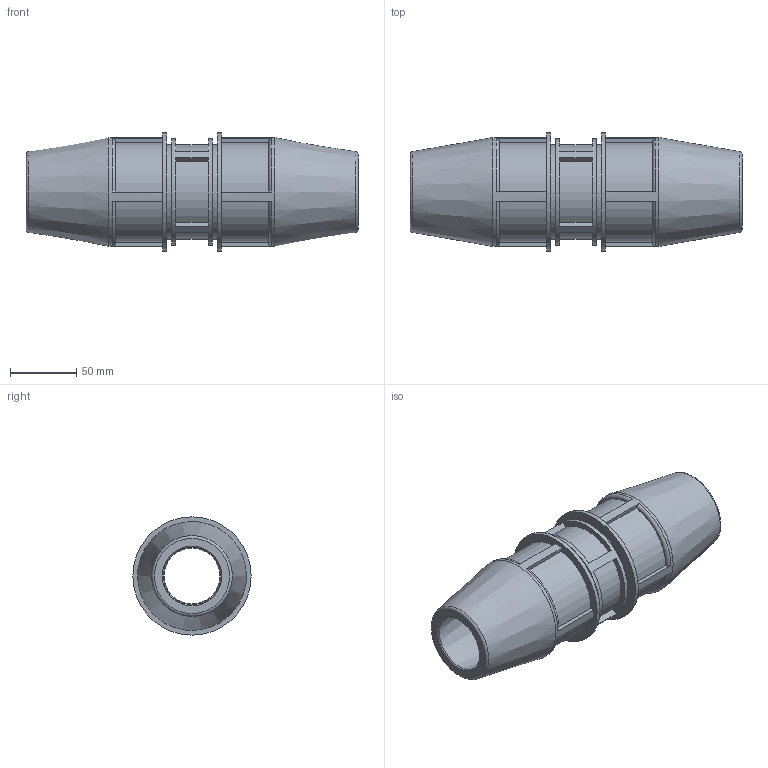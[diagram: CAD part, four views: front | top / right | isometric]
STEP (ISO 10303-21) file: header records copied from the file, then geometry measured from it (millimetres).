
FILE_DESCRIPTION(/* description */ ('PLASSON UNIVERSAL SLIP REPAIR COUPLER 40-43 SERIES 17'),/* implementation_level */ '2;1');
FILE_NAME(/* name */ 'C:\Dropbox\KIMPROJECTS-Inventor\99-16-3568-Processing\S1\17610\176100040043_196100040043.ipt.stp',/* time_stamp */ '2018-02-11T12:57:55+02:00',/* author */ ('KIM'),/* organization */ (''),/* preprocessor_version */ 'ST-DEVELOPER v15.6',/* originating_system */ 'Autodesk Inventor 2015',/* authorisation */ '');
FILE_SCHEMA (('AUTOMOTIVE_DESIGN { 1 0 10303 214 3 1 1 }'));
Length unit declared in the file: millimetre
Products named in the file (1): 176100040043_196100040043
Bounding box: 250 x 89 x 89 mm (x, y, z)
Volume: 654710.5 mm3; surface area: 115186.1 mm2
Topology: 1 solids, 1 shells, 86 faces, 211 edges, 138 vertices
Faces by surface type: plane 50, cylinder 20, torus 10, cone 6
Full cylindrical faces by diameter (mm): 42.14 x1, 71.2 x2, 80.1 x1, 81.88 x2, 89 x2
Entity records: 2492 total; most frequent: DIRECTION 462, CARTESIAN_POINT 415, ORIENTED_EDGE 384, EDGE_CURVE 192, AXIS2_PLACEMENT_3D 183, VERTEX_POINT 136, EDGE_LOOP 116, LINE 96
